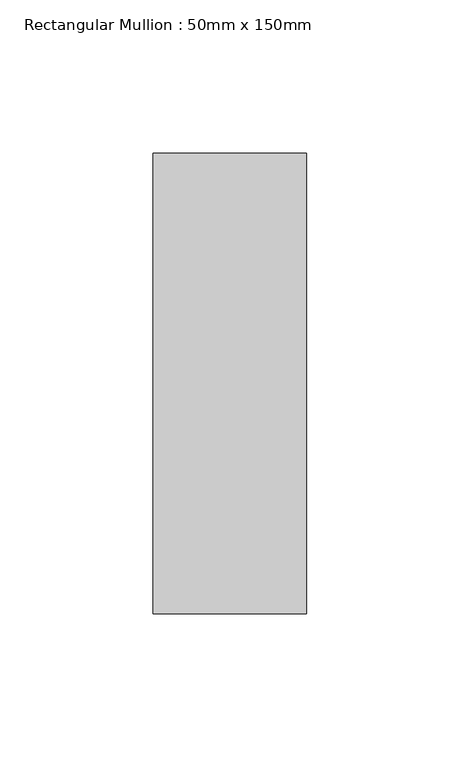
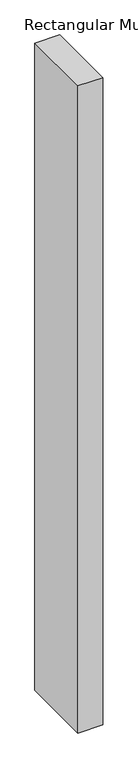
"""IFC4 building model written with IfcOpenShell, lengths in millimetres: member geometry, Rectangular Mullion : 50mm x 150mm."""

from ifc_helpers import new_model, si_unit, frame, origin, place, context, project, spatial, polyline, outline, extrude, source, transform, mapped, element, save


def rectangular_mullion_50mm_x_150mm_cdcddcff(model_context):
    return source(origin(), model_context, "Body", "SweptSolid", [
        extrude(outline(polyline([(25.0, 75.0), (25.0, -75.0), (-25.0, -75.0), (-25.0, 75.0), (25.0, 75.0)])), frame((0.0, 0.0, -1377.3178267), z_axis=(0.0, 0.0, 1.0), x_axis=(1.0, 0.0, 0.0)), (0.0, 0.0, 1.0), 1377.3178267),
    ])


if __name__ == "__main__":
    model = new_model("IFC4")
    model_context = context("Model", 3, world=origin())
    ifc_project = project(units=[si_unit("LENGTHUNIT", "METRE", prefix="MILLI")], contexts=[model_context])
    site = spatial("IfcSite", under=ifc_project)
    building = spatial("IfcBuilding", under=site)
    placement = place(None, origin())
    rectangular_mullion_50mm_x_150mm_shape = rectangular_mullion_50mm_x_150mm_cdcddcff(model_context)
    element("IfcMember", 1, ObjectType="Rectangular Mullion : 50mm x 150mm", at=placement, inside=building, context=model_context, shape_type="MappedRepresentation", body=[
        mapped(rectangular_mullion_50mm_x_150mm_shape, transform((0.0, 0.0, 0.0), x_axis=(1.0, 0.0, 0.0), y_axis=(0.0, 1.0, 0.0), z_axis=(0.0, 0.0, 1.0))),
    ])
    save(model, "model.ifc")
